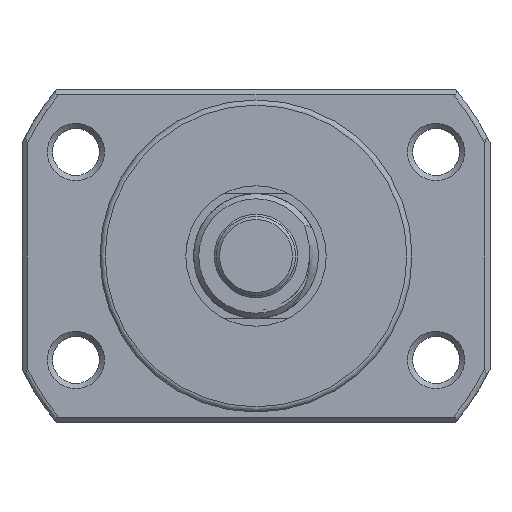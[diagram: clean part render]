
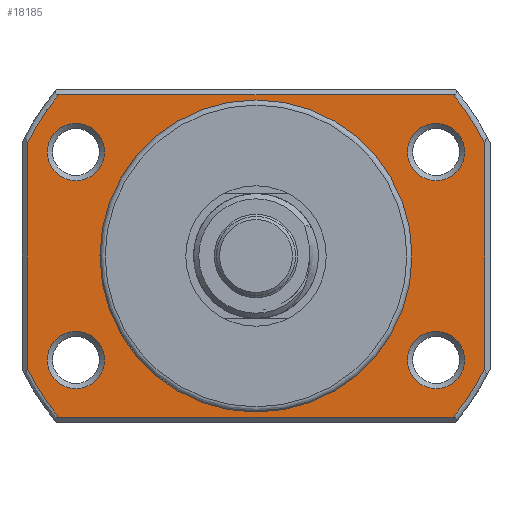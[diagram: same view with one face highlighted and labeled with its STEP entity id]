
A CAD part, left-side view. The second image highlights one B-rep face of the part: STEP entity #18185.
In plain terms, the highlighted planar face has unit normal (-1, 0, 0).
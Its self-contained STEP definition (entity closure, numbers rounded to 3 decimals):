
#126 = DIRECTION ( 'NONE',  ( 0., 0., 1. ) ) ;
#132 = CARTESIAN_POINT ( 'NONE',  ( -10.324, -17.321, -7.25 ) ) ;
#395 = VERTEX_POINT ( 'NONE', #10566 ) ;
#397 = DIRECTION ( 'NONE',  ( 1., 0., 0. ) ) ;
#417 = CARTESIAN_POINT ( 'NONE',  ( -10.324, -18.974, 15.5 ) ) ;
#652 = CARTESIAN_POINT ( 'NONE',  ( -10.324, 17.321, 12.75 ) ) ;
#712 = DIRECTION ( 'NONE',  ( 0., 0., 1. ) ) ;
#790 = ORIENTED_EDGE ( 'NONE', *, *, #3555, .T. ) ;
#1020 = DIRECTION ( 'NONE',  ( -1., 0., 0. ) ) ;
#1274 = DIRECTION ( 'NONE',  ( 1., 0., 0. ) ) ;
#1481 = EDGE_CURVE ( 'NONE', #19485, #11208, #20074, .T. ) ;
#1563 = LINE ( 'NONE', #6433, #9401 ) ;
#1603 = EDGE_CURVE ( 'NONE', #11208, #7355, #6925, .T. ) ;
#1630 = CARTESIAN_POINT ( 'NONE',  ( -10.324, 0., 0. ) ) ;
#1734 = DIRECTION ( 'NONE',  ( 0., 0., 1. ) ) ;
#2094 = CARTESIAN_POINT ( 'NONE',  ( -10.324, -22., -10.782 ) ) ;
#2379 = ORIENTED_EDGE ( 'NONE', *, *, #3153, .T. ) ;
#2502 = AXIS2_PLACEMENT_3D ( 'NONE', #3633, #19935, #3422 ) ;
#2723 = DIRECTION ( 'NONE',  ( 0., 0., 1. ) ) ;
#3023 = DIRECTION ( 'NONE',  ( 0., -1., 0. ) ) ;
#3149 = AXIS2_PLACEMENT_3D ( 'NONE', #18716, #1020, #712 ) ;
#3153 = EDGE_CURVE ( 'NONE', #14441, #14441, #18076, .T. ) ;
#3187 = VERTEX_POINT ( 'NONE', #9646 ) ;
#3422 = DIRECTION ( 'NONE',  ( 0., 0., 1. ) ) ;
#3555 = EDGE_CURVE ( 'NONE', #7355, #10634, #16387, .T. ) ;
#3633 = CARTESIAN_POINT ( 'NONE',  ( -10.324, 0., 0. ) ) ;
#4450 = DIRECTION ( 'NONE',  ( 0., 0., 1. ) ) ;
#4497 = CARTESIAN_POINT ( 'NONE',  ( -10.324, 15., -15.5 ) ) ;
#4657 = AXIS2_PLACEMENT_3D ( 'NONE', #9352, #12732, #126 ) ;
#4783 = CARTESIAN_POINT ( 'NONE',  ( -10.324, 0., 0. ) ) ;
#4838 = FACE_BOUND ( 'NONE', #10791, .T. ) ;
#4906 = CARTESIAN_POINT ( 'NONE',  ( -10.324, -22., 0. ) ) ;
#5211 = CARTESIAN_POINT ( 'NONE',  ( -10.324, 17.321, -7.25 ) ) ;
#5431 = DIRECTION ( 'NONE',  ( 0., 0., -1. ) ) ;
#5597 = ORIENTED_EDGE ( 'NONE', *, *, #10289, .T. ) ;
#5831 = AXIS2_PLACEMENT_3D ( 'NONE', #4783, #15930, #9670 ) ;
#5899 = CARTESIAN_POINT ( 'NONE',  ( -10.324, 22., -10.782 ) ) ;
#6225 = DIRECTION ( 'NONE',  ( 0., 0., 1. ) ) ;
#6433 = CARTESIAN_POINT ( 'NONE',  ( -10.324, 15., 15.5 ) ) ;
#6522 = VECTOR ( 'NONE', #3023, 1000. ) ;
#6672 = ORIENTED_EDGE ( 'NONE', *, *, #15579, .T. ) ;
#6813 = VERTEX_POINT ( 'NONE', #19734 ) ;
#6865 = DIRECTION ( 'NONE',  ( 0., 0., 1. ) ) ;
#6925 = LINE ( 'NONE', #4906, #7218 ) ;
#7218 = VECTOR ( 'NONE', #1734, 1000. ) ;
#7224 = CIRCLE ( 'NONE', #3149, 24.5 ) ;
#7240 = AXIS2_PLACEMENT_3D ( 'NONE', #20315, #17038, #2723 ) ;
#7355 = VERTEX_POINT ( 'NONE', #16992 ) ;
#7452 = LINE ( 'NONE', #14020, #7882 ) ;
#7537 = AXIS2_PLACEMENT_3D ( 'NONE', #7735, #9647, #4450 ) ;
#7551 = AXIS2_PLACEMENT_3D ( 'NONE', #16517, #397, #6865 ) ;
#7735 = CARTESIAN_POINT ( 'NONE',  ( -10.324, 17.321, -10. ) ) ;
#7882 = VECTOR ( 'NONE', #5431, 1000. ) ;
#7918 = FACE_OUTER_BOUND ( 'NONE', #11536, .T. ) ;
#8223 = CIRCLE ( 'NONE', #7537, 2.75 ) ;
#8308 = DIRECTION ( 'NONE',  ( 0., 0., 1. ) ) ;
#8310 = EDGE_CURVE ( 'NONE', #395, #17256, #7452, .T. ) ;
#8355 = EDGE_CURVE ( 'NONE', #6813, #6813, #19739, .T. ) ;
#8399 = AXIS2_PLACEMENT_3D ( 'NONE', #9829, #16196, #6225 ) ;
#8586 = CIRCLE ( 'NONE', #7240, 24.5 ) ;
#8811 = CARTESIAN_POINT ( 'NONE',  ( -10.324, -17.321, 12.75 ) ) ;
#8884 = ORIENTED_EDGE ( 'NONE', *, *, #1603, .T. ) ;
#9241 = EDGE_CURVE ( 'NONE', #19377, #19485, #12865, .T. ) ;
#9352 = CARTESIAN_POINT ( 'NONE',  ( -10.324, -17.321, 10. ) ) ;
#9401 = VECTOR ( 'NONE', #12888, 1000. ) ;
#9646 = CARTESIAN_POINT ( 'NONE',  ( -10.324, 18.974, 15.5 ) ) ;
#9647 = DIRECTION ( 'NONE',  ( 1., 0., 0. ) ) ;
#9670 = DIRECTION ( 'NONE',  ( 0., 0., 1. ) ) ;
#9829 = CARTESIAN_POINT ( 'NONE',  ( -10.324, 15., 0. ) ) ;
#9833 = EDGE_LOOP ( 'NONE', ( #17671 ) ) ;
#10289 = EDGE_CURVE ( 'NONE', #15176, #15176, #8223, .T. ) ;
#10566 = CARTESIAN_POINT ( 'NONE',  ( -10.324, 22., 10.782 ) ) ;
#10634 = VERTEX_POINT ( 'NONE', #417 ) ;
#10791 = EDGE_LOOP ( 'NONE', ( #13604 ) ) ;
#11024 = DIRECTION ( 'NONE',  ( 0., 0., 1. ) ) ;
#11208 = VERTEX_POINT ( 'NONE', #2094 ) ;
#11536 = EDGE_LOOP ( 'NONE', ( #790, #11682, #6672, #14177, #14998, #11756, #18947, #8884 ) ) ;
#11682 = ORIENTED_EDGE ( 'NONE', *, *, #18566, .T. ) ;
#11756 = ORIENTED_EDGE ( 'NONE', *, *, #9241, .T. ) ;
#11954 = EDGE_CURVE ( 'NONE', #11985, #11985, #19059, .T. ) ;
#11985 = VERTEX_POINT ( 'NONE', #652 ) ;
#12574 = FACE_BOUND ( 'NONE', #9833, .T. ) ;
#12732 = DIRECTION ( 'NONE',  ( 1., 0., 0. ) ) ;
#12865 = LINE ( 'NONE', #4497, #6522 ) ;
#12888 = DIRECTION ( 'NONE',  ( 0., 1., 0. ) ) ;
#12999 = FACE_BOUND ( 'NONE', #14616, .T. ) ;
#13604 = ORIENTED_EDGE ( 'NONE', *, *, #11954, .T. ) ;
#14020 = CARTESIAN_POINT ( 'NONE',  ( -10.324, 22., 0. ) ) ;
#14177 = ORIENTED_EDGE ( 'NONE', *, *, #8310, .T. ) ;
#14425 = EDGE_CURVE ( 'NONE', #17256, #19377, #7224, .T. ) ;
#14441 = VERTEX_POINT ( 'NONE', #132 ) ;
#14616 = EDGE_LOOP ( 'NONE', ( #5597 ) ) ;
#14998 = ORIENTED_EDGE ( 'NONE', *, *, #14425, .T. ) ;
#15176 = VERTEX_POINT ( 'NONE', #5211 ) ;
#15579 = EDGE_CURVE ( 'NONE', #3187, #395, #8586, .T. ) ;
#15698 = CARTESIAN_POINT ( 'NONE',  ( -10.324, -17.321, -10. ) ) ;
#15930 = DIRECTION ( 'NONE',  ( -1., 0., 0. ) ) ;
#16196 = DIRECTION ( 'NONE',  ( -1., 0., 0. ) ) ;
#16262 = DIRECTION ( 'NONE',  ( -1., 0., 0. ) ) ;
#16367 = AXIS2_PLACEMENT_3D ( 'NONE', #1630, #16262, #8308 ) ;
#16387 = CIRCLE ( 'NONE', #2502, 24.5 ) ;
#16517 = CARTESIAN_POINT ( 'NONE',  ( -10.324, 17.321, 10. ) ) ;
#16992 = CARTESIAN_POINT ( 'NONE',  ( -10.324, -22., 10.782 ) ) ;
#17038 = DIRECTION ( 'NONE',  ( -1., 0., 0. ) ) ;
#17256 = VERTEX_POINT ( 'NONE', #5899 ) ;
#17462 = FACE_BOUND ( 'NONE', #18994, .T. ) ;
#17666 = FACE_BOUND ( 'NONE', #19859, .T. ) ;
#17671 = ORIENTED_EDGE ( 'NONE', *, *, #8355, .F. ) ;
#18076 = CIRCLE ( 'NONE', #18395, 2.75 ) ;
#18185 = ADVANCED_FACE ( 'NONE', ( #17462, #17666, #12999, #4838, #7918, #12574 ), #20743, .T. ) ;
#18395 = AXIS2_PLACEMENT_3D ( 'NONE', #15698, #1274, #11024 ) ;
#18566 = EDGE_CURVE ( 'NONE', #10634, #3187, #1563, .T. ) ;
#18716 = CARTESIAN_POINT ( 'NONE',  ( -10.324, 0., 0. ) ) ;
#18947 = ORIENTED_EDGE ( 'NONE', *, *, #1481, .T. ) ;
#18994 = EDGE_LOOP ( 'NONE', ( #20672 ) ) ;
#19059 = CIRCLE ( 'NONE', #7551, 2.75 ) ;
#19377 = VERTEX_POINT ( 'NONE', #19411 ) ;
#19411 = CARTESIAN_POINT ( 'NONE',  ( -10.324, 18.974, -15.5 ) ) ;
#19474 = EDGE_CURVE ( 'NONE', #19833, #19833, #20907, .T. ) ;
#19485 = VERTEX_POINT ( 'NONE', #19518 ) ;
#19518 = CARTESIAN_POINT ( 'NONE',  ( -10.324, -18.974, -15.5 ) ) ;
#19734 = CARTESIAN_POINT ( 'NONE',  ( -10.324, 0., 15. ) ) ;
#19739 = CIRCLE ( 'NONE', #5831, 15. ) ;
#19833 = VERTEX_POINT ( 'NONE', #8811 ) ;
#19859 = EDGE_LOOP ( 'NONE', ( #2379 ) ) ;
#19935 = DIRECTION ( 'NONE',  ( -1., 0., 0. ) ) ;
#20074 = CIRCLE ( 'NONE', #16367, 24.5 ) ;
#20315 = CARTESIAN_POINT ( 'NONE',  ( -10.324, 0., 0. ) ) ;
#20672 = ORIENTED_EDGE ( 'NONE', *, *, #19474, .T. ) ;
#20743 = PLANE ( 'NONE',  #8399 ) ;
#20907 = CIRCLE ( 'NONE', #4657, 2.75 ) ;
